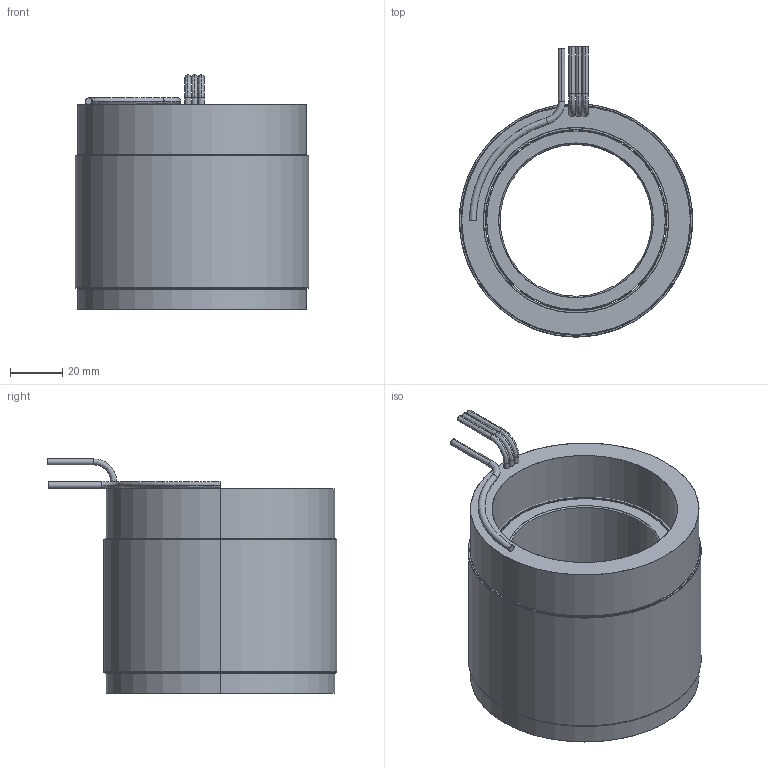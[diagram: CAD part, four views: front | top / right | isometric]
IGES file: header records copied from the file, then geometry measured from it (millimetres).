
Start section: SolidWorks IGES file using analytic representation for surfaces
Global section: file name: \\fs01.aveox.local\user documents\eng\My Documents\6100394-XX STATOR AND ROTOR SET, UT-3500-24P3, SENSORLESS\6100394-05.IGS; native system: SolidWorks 2016; preprocessor: SolidWorks 2016; author: eng; date: 201214.193619; units: inch
Bounding box: 88.9 x 110.49 x 89.28 mm (x, y, z)
Surface area: 115435.7 mm2 (no closed solid volume)
Topology: 0 solids, 0 shells, 75 faces, 2288 edges, 2288 vertices
Faces by surface type: revolution 46, bspline 29
